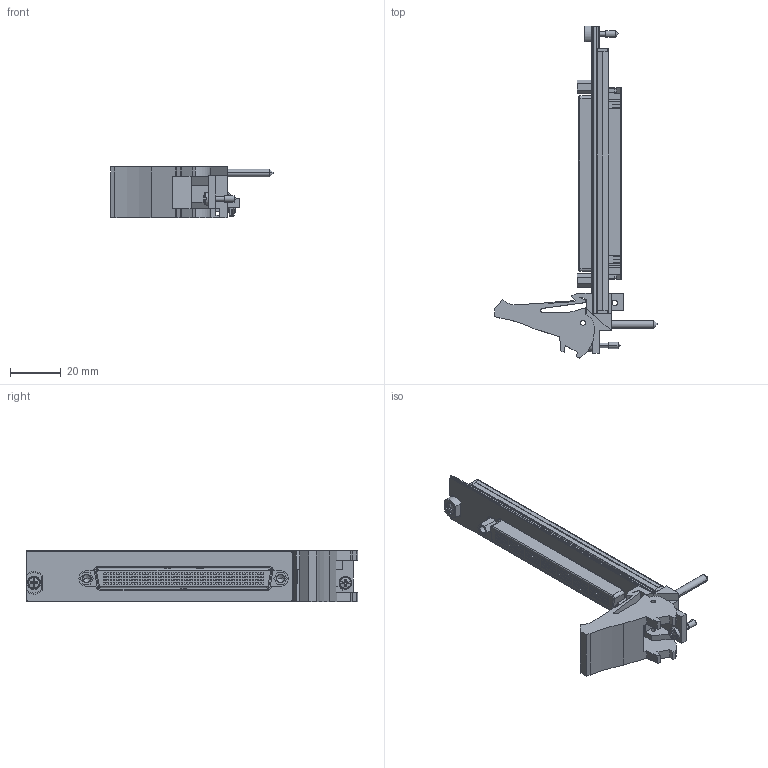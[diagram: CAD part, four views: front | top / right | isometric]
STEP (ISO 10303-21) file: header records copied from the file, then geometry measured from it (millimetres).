
FILE_DESCRIPTION((''),'2;1');
FILE_NAME('CU_PXI-2571','2011-09-26T',('jjorden'),(''),'PRO/ENGINEER BY PARAMETRIC TECHNOLOGY CORPORATION, 2010230','PRO/ENGINEER BY PARAMETRIC TECHNOLOGY CORPORATION, 2010230','');
FILE_SCHEMA(('CONFIG_CONTROL_DESIGN'));
Products named in the file (1): CU_PXI-2571
Bounding box: 63.73 x 130.5 x 20.31 mm (x, y, z)
Volume: 18838.4 mm3; surface area: 23337 mm2
Topology: 2 solids, 2 shells, 2304 faces, 6112 edges, 4040 vertices
Faces by surface type: plane 2142, cylinder 124, cone 26, torus 8, sphere 4
Entity records: 70383 total; most frequent: CARTESIAN_POINT 12667, ORIENTED_EDGE 12208, DIRECTION 10993, EDGE_CURVE 6104, VECTOR 5769, LINE 5769, VERTEX_POINT 4040, EDGE_LOOP 2614
